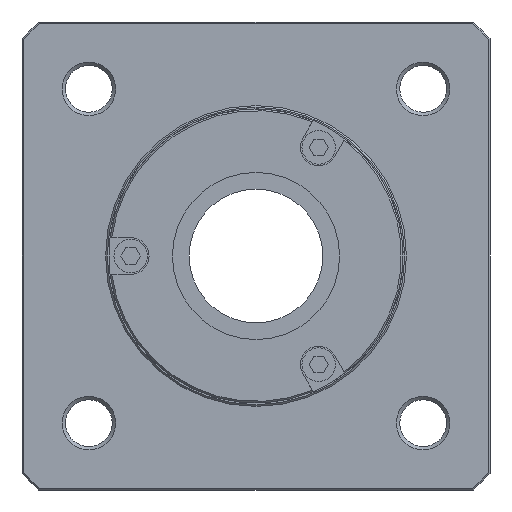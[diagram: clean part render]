
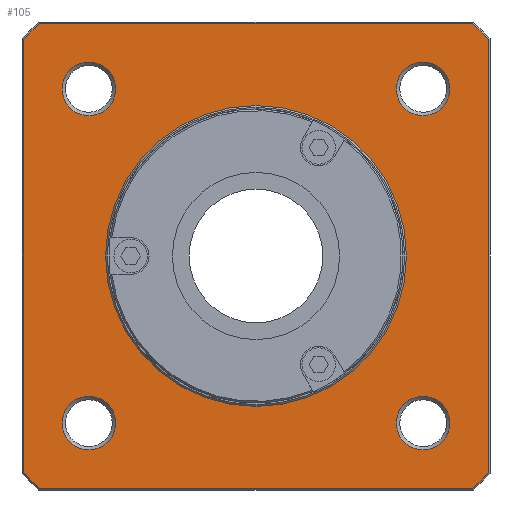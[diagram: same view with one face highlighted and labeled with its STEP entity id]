
A CAD part, left-side view. The second image highlights one B-rep face of the part: STEP entity #105.
In plain terms, the highlighted planar face has unit normal (-1, 0, 0).
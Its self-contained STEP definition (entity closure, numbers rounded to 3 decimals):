
#105=ADVANCED_FACE('',(#312,#313,#314,#315,#316,#317),#318,.T.);
#312=FACE_BOUND('',#728,.T.);
#313=FACE_BOUND('',#729,.T.);
#314=FACE_BOUND('',#730,.T.);
#315=FACE_BOUND('',#731,.T.);
#316=FACE_OUTER_BOUND('',#732,.T.);
#317=FACE_BOUND('',#733,.T.);
#318=PLANE('',#734);
#728=EDGE_LOOP('',(#1325));
#729=EDGE_LOOP('',(#1326));
#730=EDGE_LOOP('',(#1327));
#731=EDGE_LOOP('',(#1328));
#732=EDGE_LOOP('',(#1329,#1330,#1331,#1332,#1333,#1334,#1335,#1336));
#733=EDGE_LOOP('',(#1337));
#734=AXIS2_PLACEMENT_3D('',#1338,#1339,#1340);
#1325=ORIENTED_EDGE('',*,*,#2474,.T.);
#1326=ORIENTED_EDGE('',*,*,#2475,.T.);
#1327=ORIENTED_EDGE('',*,*,#2476,.T.);
#1328=ORIENTED_EDGE('',*,*,#2477,.T.);
#1329=ORIENTED_EDGE('',*,*,#2425,.T.);
#1330=ORIENTED_EDGE('',*,*,#2422,.T.);
#1331=ORIENTED_EDGE('',*,*,#2478,.T.);
#1332=ORIENTED_EDGE('',*,*,#2479,.T.);
#1333=ORIENTED_EDGE('',*,*,#2480,.T.);
#1334=ORIENTED_EDGE('',*,*,#2481,.T.);
#1335=ORIENTED_EDGE('',*,*,#2431,.T.);
#1336=ORIENTED_EDGE('',*,*,#2428,.T.);
#1337=ORIENTED_EDGE('',*,*,#2482,.F.);
#1338=CARTESIAN_POINT('',(4.0,45.0,0.0));
#1339=DIRECTION('',(-1.0,0.0,0.0));
#1340=DIRECTION('',(0.0,0.0,1.0));
#2422=EDGE_CURVE('',#2865,#2870,#2872,.T.);
#2425=EDGE_CURVE('',#2873,#2865,#2877,.T.);
#2428=EDGE_CURVE('',#2878,#2873,#2882,.T.);
#2431=EDGE_CURVE('',#2883,#2878,#2887,.T.);
#2474=EDGE_CURVE('',#2960,#2960,#2961,.F.);
#2475=EDGE_CURVE('',#2962,#2962,#2963,.F.);
#2476=EDGE_CURVE('',#2964,#2964,#2965,.F.);
#2477=EDGE_CURVE('',#2966,#2966,#2967,.F.);
#2478=EDGE_CURVE('',#2870,#2968,#2969,.T.);
#2479=EDGE_CURVE('',#2968,#2970,#2971,.T.);
#2480=EDGE_CURVE('',#2970,#2972,#2973,.T.);
#2481=EDGE_CURVE('',#2972,#2883,#2974,.T.);
#2482=EDGE_CURVE('',#2975,#2975,#2976,.T.);
#2865=VERTEX_POINT('',#3598);
#2870=VERTEX_POINT('',#3607);
#2872=LINE('',#3612,#3613);
#2873=VERTEX_POINT('',#3614);
#2877=CIRCLE('',#3621,95.0);
#2878=VERTEX_POINT('',#3622);
#2882=LINE('',#3630,#3631);
#2883=VERTEX_POINT('',#3632);
#2887=CIRCLE('',#3639,95.0);
#2960=VERTEX_POINT('',#3883);
#2961=CIRCLE('',#3884,8.0);
#2962=VERTEX_POINT('',#3885);
#2963=CIRCLE('',#3886,8.0);
#2964=VERTEX_POINT('',#3887);
#2965=CIRCLE('',#3888,8.0);
#2966=VERTEX_POINT('',#3889);
#2967=CIRCLE('',#3890,8.0);
#2968=VERTEX_POINT('',#3891);
#2969=CIRCLE('',#3892,95.0);
#2970=VERTEX_POINT('',#3893);
#2971=LINE('',#3894,#3895);
#2972=VERTEX_POINT('',#3896);
#2973=CIRCLE('',#3897,95.0);
#2974=LINE('',#3898,#3899);
#2975=VERTEX_POINT('',#3900);
#2976=CIRCLE('',#3901,45.0);
#3598=CARTESIAN_POINT('',(4.0,64.767,-69.5));
#3607=CARTESIAN_POINT('',(4.0,-64.767,-69.5));
#3612=CARTESIAN_POINT('',(4.0,45.0,-69.5));
#3613=VECTOR('',#4634,1.0);
#3614=CARTESIAN_POINT('',(4.0,69.5,-64.767));
#3621=AXIS2_PLACEMENT_3D('',#4638,#4639,#4640);
#3622=CARTESIAN_POINT('',(4.0,69.5,64.767));
#3630=CARTESIAN_POINT('',(4.0,69.5,0.0));
#3631=VECTOR('',#4642,1.0);
#3632=CARTESIAN_POINT('',(4.0,64.767,69.5));
#3639=AXIS2_PLACEMENT_3D('',#4646,#4647,#4648);
#3883=CARTESIAN_POINT('',(4.0,50.0,58.0));
#3884=AXIS2_PLACEMENT_3D('',#4690,#4691,#4692);
#3885=CARTESIAN_POINT('',(4.0,-50.0,58.0));
#3886=AXIS2_PLACEMENT_3D('',#4693,#4694,#4695);
#3887=CARTESIAN_POINT('',(4.0,50.0,-42.0));
#3888=AXIS2_PLACEMENT_3D('',#4696,#4697,#4698);
#3889=CARTESIAN_POINT('',(4.0,-50.0,-42.0));
#3890=AXIS2_PLACEMENT_3D('',#4699,#4700,#4701);
#3891=CARTESIAN_POINT('',(4.0,-69.5,-64.767));
#3892=AXIS2_PLACEMENT_3D('',#4702,#4703,#4704);
#3893=CARTESIAN_POINT('',(4.0,-69.5,64.767));
#3894=CARTESIAN_POINT('',(4.0,-69.5,0.0));
#3895=VECTOR('',#4705,1.0);
#3896=CARTESIAN_POINT('',(4.0,-64.767,69.5));
#3897=AXIS2_PLACEMENT_3D('',#4706,#4707,#4708);
#3898=CARTESIAN_POINT('',(4.0,45.0,69.5));
#3899=VECTOR('',#4709,1.0);
#3900=CARTESIAN_POINT('',(4.0,0.0,45.0));
#3901=AXIS2_PLACEMENT_3D('',#4710,#4711,#4712);
#4634=DIRECTION('',(0.0,-1.0,0.0));
#4638=CARTESIAN_POINT('',(4.0,0.0,0.0));
#4639=DIRECTION('',(-1.0,0.0,0.0));
#4640=DIRECTION('',(0.0,0.0,1.0));
#4642=DIRECTION('',(0.0,0.0,-1.0));
#4646=CARTESIAN_POINT('',(4.0,0.0,0.0));
#4647=DIRECTION('',(-1.0,0.0,0.0));
#4648=DIRECTION('',(0.0,0.0,1.0));
#4690=CARTESIAN_POINT('',(4.0,50.0,50.0));
#4691=DIRECTION('',(-1.0,0.0,0.0));
#4692=DIRECTION('',(0.0,0.0,1.0));
#4693=CARTESIAN_POINT('',(4.0,-50.0,50.0));
#4694=DIRECTION('',(-1.0,0.0,0.0));
#4695=DIRECTION('',(0.0,0.0,1.0));
#4696=CARTESIAN_POINT('',(4.0,50.0,-50.0));
#4697=DIRECTION('',(-1.0,0.0,0.0));
#4698=DIRECTION('',(0.0,0.0,1.0));
#4699=CARTESIAN_POINT('',(4.0,-50.0,-50.0));
#4700=DIRECTION('',(-1.0,0.0,0.0));
#4701=DIRECTION('',(0.0,0.0,1.0));
#4702=CARTESIAN_POINT('',(4.0,0.0,0.0));
#4703=DIRECTION('',(-1.0,0.0,0.0));
#4704=DIRECTION('',(0.0,0.0,1.0));
#4705=DIRECTION('',(0.0,0.0,1.0));
#4706=CARTESIAN_POINT('',(4.0,0.0,0.0));
#4707=DIRECTION('',(-1.0,0.0,0.0));
#4708=DIRECTION('',(0.0,0.0,1.0));
#4709=DIRECTION('',(0.0,1.0,0.0));
#4710=CARTESIAN_POINT('',(4.0,0.0,0.0));
#4711=DIRECTION('',(-1.0,0.0,0.0));
#4712=DIRECTION('',(0.0,0.0,1.0));
